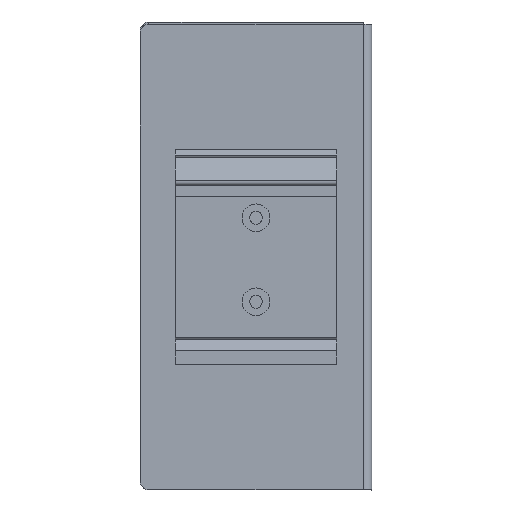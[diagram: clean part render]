
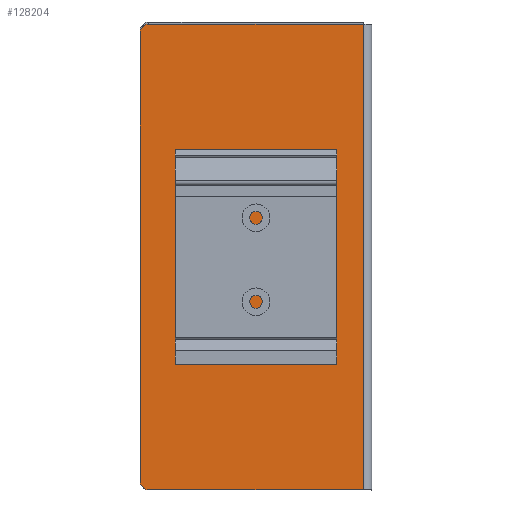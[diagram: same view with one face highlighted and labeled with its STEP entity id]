
A CAD part, front view. The second image highlights one B-rep face of the part: STEP entity #128204.
In plain terms, the highlighted planar face has unit normal (0, -1, 0).
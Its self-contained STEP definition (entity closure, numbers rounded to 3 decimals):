
#13151 = VERTEX_POINT ( 'NONE', #17112 ) ;
#17112 = CARTESIAN_POINT ( 'NONE',  ( -62.17, -36.599, 63.141 ) ) ;
#27829 = DIRECTION ( 'NONE',  ( 1., 0., 0. ) ) ;
#37391 = CARTESIAN_POINT ( 'NONE',  ( -62.17, -36.599, -47.359 ) ) ;
#40425 = VERTEX_POINT ( 'NONE', #245997 ) ;
#45911 = CARTESIAN_POINT ( 'NONE',  ( -64.27, -36.599, 7.891 ) ) ;
#51592 = EDGE_LOOP ( 'NONE', ( #278508, #268008, #322858, #89532, #302272, #189432 ) ) ;
#52687 = FACE_OUTER_BOUND ( 'NONE', #51592, .T. ) ;
#61513 = DIRECTION ( 'NONE',  ( 1., 0., 0. ) ) ;
#62255 = DIRECTION ( 'NONE',  ( 1., 0., 0. ) ) ;
#62835 = VECTOR ( 'NONE', #314994, 1000. ) ;
#67565 = EDGE_CURVE ( 'NONE', #13151, #306518, #139514, .T. ) ;
#87318 = DIRECTION ( 'NONE',  ( 0., 0., -1. ) ) ;
#89532 = ORIENTED_EDGE ( 'NONE', *, *, #148866, .T. ) ;
#90250 = VECTOR ( 'NONE', #62255, 1000. ) ;
#97818 = CIRCLE ( 'NONE', #318225, 2.1 ) ;
#110821 = VERTEX_POINT ( 'NONE', #178514 ) ;
#111958 = LINE ( 'NONE', #287996, #143654 ) ;
#113328 = DIRECTION ( 'NONE',  ( 0., 0., -1. ) ) ;
#121679 = DIRECTION ( 'NONE',  ( 0., -1., 0. ) ) ;
#128122 = CARTESIAN_POINT ( 'NONE',  ( -62.17, -36.599, -45.259 ) ) ;
#128204 = ADVANCED_FACE ( 'NONE', ( #52687 ), #129856, .F. ) ;
#129856 = PLANE ( 'NONE',  #244882 ) ;
#133841 = DIRECTION ( 'NONE',  ( 0., -1., 0. ) ) ;
#139514 = CIRCLE ( 'NONE', #181515, 2.1 ) ;
#143654 = VECTOR ( 'NONE', #87318, 1000. ) ;
#145255 = VERTEX_POINT ( 'NONE', #37391 ) ;
#148866 = EDGE_CURVE ( 'NONE', #40425, #145255, #97818, .T. ) ;
#152793 = CARTESIAN_POINT ( 'NONE',  ( -64.27, -36.599, 61.041 ) ) ;
#173468 = EDGE_CURVE ( 'NONE', #110821, #276924, #111958, .T. ) ;
#178514 = CARTESIAN_POINT ( 'NONE',  ( -11.37, -36.599, 63.141 ) ) ;
#181515 = AXIS2_PLACEMENT_3D ( 'NONE', #186431, #133841, #61513 ) ;
#182571 = CARTESIAN_POINT ( 'NONE',  ( -11.37, -36.599, -47.359 ) ) ;
#186431 = CARTESIAN_POINT ( 'NONE',  ( -62.17, -36.599, 61.041 ) ) ;
#189432 = ORIENTED_EDGE ( 'NONE', *, *, #173468, .F. ) ;
#207085 = CARTESIAN_POINT ( 'NONE',  ( -11.27, -36.599, 7.891 ) ) ;
#210165 = LINE ( 'NONE', #313809, #90250 ) ;
#216140 = CARTESIAN_POINT ( 'NONE',  ( -11.27, -36.599, 63.141 ) ) ;
#226443 = EDGE_CURVE ( 'NONE', #110821, #13151, #291944, .T. ) ;
#233855 = EDGE_CURVE ( 'NONE', #145255, #276924, #210165, .T. ) ;
#235265 = EDGE_CURVE ( 'NONE', #306518, #40425, #269633, .T. ) ;
#244882 = AXIS2_PLACEMENT_3D ( 'NONE', #207085, #312396, #113328 ) ;
#245997 = CARTESIAN_POINT ( 'NONE',  ( -64.27, -36.599, -45.259 ) ) ;
#268008 = ORIENTED_EDGE ( 'NONE', *, *, #67565, .T. ) ;
#269633 = LINE ( 'NONE', #45911, #293541 ) ;
#276924 = VERTEX_POINT ( 'NONE', #182571 ) ;
#278508 = ORIENTED_EDGE ( 'NONE', *, *, #226443, .T. ) ;
#287996 = CARTESIAN_POINT ( 'NONE',  ( -11.37, -36.599, -47.359 ) ) ;
#291944 = LINE ( 'NONE', #216140, #62835 ) ;
#293541 = VECTOR ( 'NONE', #317407, 1000. ) ;
#302272 = ORIENTED_EDGE ( 'NONE', *, *, #233855, .T. ) ;
#306518 = VERTEX_POINT ( 'NONE', #152793 ) ;
#312396 = DIRECTION ( 'NONE',  ( 0., 1., 0. ) ) ;
#313809 = CARTESIAN_POINT ( 'NONE',  ( -11.27, -36.599, -47.359 ) ) ;
#314994 = DIRECTION ( 'NONE',  ( -1., 0., 0. ) ) ;
#317407 = DIRECTION ( 'NONE',  ( 0., 0., -1. ) ) ;
#318225 = AXIS2_PLACEMENT_3D ( 'NONE', #128122, #121679, #27829 ) ;
#322858 = ORIENTED_EDGE ( 'NONE', *, *, #235265, .T. ) ;
